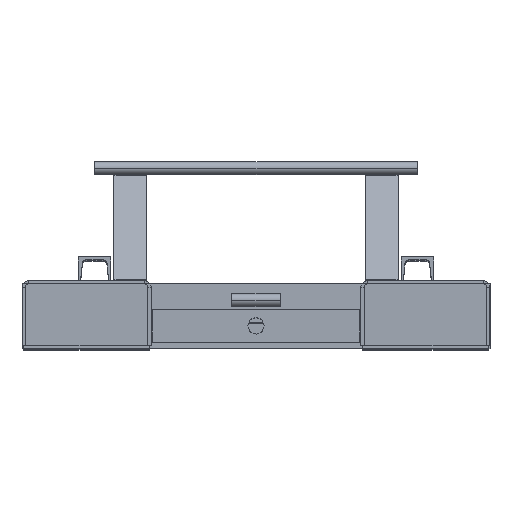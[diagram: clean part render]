
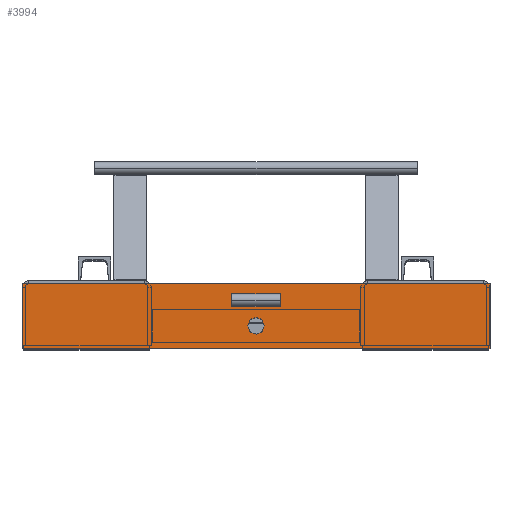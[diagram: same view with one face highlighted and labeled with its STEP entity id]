
A CAD part, top view. The second image highlights one B-rep face of the part: STEP entity #3994.
In plain terms, the highlighted planar face has unit normal (0, 0, 1) as drawn and (0, 1, 0) by its records, which use the part's own axes.
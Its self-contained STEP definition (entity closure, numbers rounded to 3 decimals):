
#5 = LINE ( 'NONE', #4573, #3208 ) ;
#410 = CARTESIAN_POINT ( 'NONE',  ( -362.5, 5., -100. ) ) ;
#501 = FACE_BOUND ( 'NONE', #4628, .T. ) ;
#560 = CARTESIAN_POINT ( 'NONE',  ( 0., 5., -22.5 ) ) ;
#565 = AXIS2_PLACEMENT_3D ( 'NONE', #5413, #4392, #6459 ) ;
#724 = CARTESIAN_POINT ( 'NONE',  ( -362.5, 5., 0. ) ) ;
#907 = VERTEX_POINT ( 'NONE', #560 ) ;
#1004 = EDGE_CURVE ( 'NONE', #907, #5880, #5240, .T. ) ;
#1067 = VECTOR ( 'NONE', #4136, 1000. ) ;
#1167 = ORIENTED_EDGE ( 'NONE', *, *, #4886, .F. ) ;
#1269 = CARTESIAN_POINT ( 'NONE',  ( 362.5, 5., 0. ) ) ;
#1390 = CARTESIAN_POINT ( 'NONE',  ( 362.5, 5., 0. ) ) ;
#1393 = LINE ( 'NONE', #1390, #1067 ) ;
#1402 = CARTESIAN_POINT ( 'NONE',  ( 0., 5., 0. ) ) ;
#1864 = ORIENTED_EDGE ( 'NONE', *, *, #2091, .F. ) ;
#1920 = EDGE_CURVE ( 'NONE', #2523, #1938, #2080, .T. ) ;
#1938 = VERTEX_POINT ( 'NONE', #1269 ) ;
#2080 = LINE ( 'NONE', #724, #6541 ) ;
#2091 = EDGE_CURVE ( 'NONE', #4117, #6571, #3584, .T. ) ;
#2479 = DIRECTION ( 'NONE',  ( 0., 0., 1. ) ) ;
#2523 = VERTEX_POINT ( 'NONE', #4460 ) ;
#2861 = CARTESIAN_POINT ( 'NONE',  ( 0., 5., -47.5 ) ) ;
#3180 = ORIENTED_EDGE ( 'NONE', *, *, #5493, .T. ) ;
#3208 = VECTOR ( 'NONE', #6025, 1000. ) ;
#3224 = CIRCLE ( 'NONE', #6154, 12.5 ) ;
#3551 = ORIENTED_EDGE ( 'NONE', *, *, #1920, .T. ) ;
#3584 = LINE ( 'NONE', #6662, #5141 ) ;
#3788 = CARTESIAN_POINT ( 'NONE',  ( 362.5, 5., -100. ) ) ;
#3994 = ADVANCED_FACE ( 'NONE', ( #4484, #501 ), #6681, .F. ) ;
#4070 = CARTESIAN_POINT ( 'NONE',  ( 0., 5., -35. ) ) ;
#4117 = VERTEX_POINT ( 'NONE', #410 ) ;
#4136 = DIRECTION ( 'NONE',  ( 0., 0., -1. ) ) ;
#4392 = DIRECTION ( 'NONE',  ( 0., 1., 0. ) ) ;
#4460 = CARTESIAN_POINT ( 'NONE',  ( -362.5, 5., 0. ) ) ;
#4484 = FACE_OUTER_BOUND ( 'NONE', #4884, .T. ) ;
#4558 = DIRECTION ( 'NONE',  ( 0., -1., 0. ) ) ;
#4573 = CARTESIAN_POINT ( 'NONE',  ( -362.5, 5., 0. ) ) ;
#4581 = DIRECTION ( 'NONE',  ( 1., 0., 0. ) ) ;
#4628 = EDGE_LOOP ( 'NONE', ( #1167, #5013 ) ) ;
#4884 = EDGE_LOOP ( 'NONE', ( #5765, #3551, #3180, #1864 ) ) ;
#4886 = EDGE_CURVE ( 'NONE', #5880, #907, #3224, .T. ) ;
#4992 = DIRECTION ( 'NONE',  ( 1., 0., 0. ) ) ;
#5013 = ORIENTED_EDGE ( 'NONE', *, *, #1004, .F. ) ;
#5141 = VECTOR ( 'NONE', #4581, 1000. ) ;
#5240 = CIRCLE ( 'NONE', #565, 12.5 ) ;
#5413 = CARTESIAN_POINT ( 'NONE',  ( 0., 5., -35. ) ) ;
#5493 = EDGE_CURVE ( 'NONE', #1938, #6571, #1393, .T. ) ;
#5598 = DIRECTION ( 'NONE',  ( 0., 0., -1. ) ) ;
#5633 = DIRECTION ( 'NONE',  ( 0., 1., 0. ) ) ;
#5765 = ORIENTED_EDGE ( 'NONE', *, *, #6026, .T. ) ;
#5880 = VERTEX_POINT ( 'NONE', #2861 ) ;
#6025 = DIRECTION ( 'NONE',  ( 0., 0., 1. ) ) ;
#6026 = EDGE_CURVE ( 'NONE', #4117, #2523, #5, .T. ) ;
#6154 = AXIS2_PLACEMENT_3D ( 'NONE', #4070, #5633, #2479 ) ;
#6459 = DIRECTION ( 'NONE',  ( 0., 0., 1. ) ) ;
#6541 = VECTOR ( 'NONE', #4992, 1000. ) ;
#6571 = VERTEX_POINT ( 'NONE', #3788 ) ;
#6583 = AXIS2_PLACEMENT_3D ( 'NONE', #1402, #4558, #5598 ) ;
#6662 = CARTESIAN_POINT ( 'NONE',  ( -362.5, 5., -100. ) ) ;
#6681 = PLANE ( 'NONE',  #6583 ) ;
